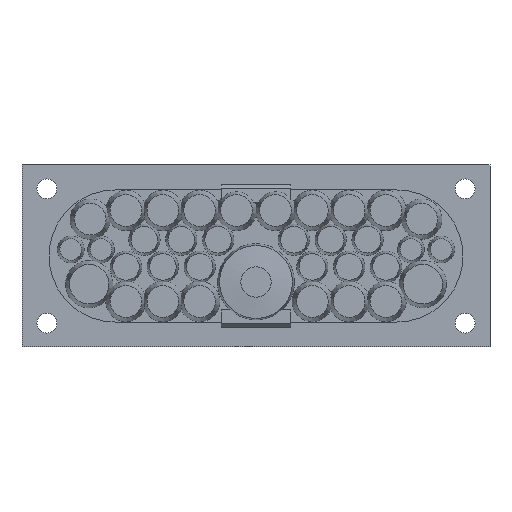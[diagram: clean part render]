
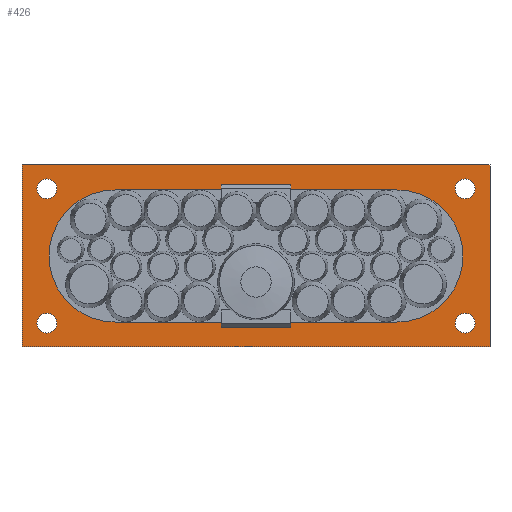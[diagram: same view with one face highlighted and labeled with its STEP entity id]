
A CAD part, front view. The second image highlights one B-rep face of the part: STEP entity #426.
In plain terms, the highlighted planar face has unit normal (0, -1, 0).
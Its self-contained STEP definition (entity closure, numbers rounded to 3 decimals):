
#426 = ADVANCED_FACE( '', ( #1099, #1100, #1101, #1102, #1103, #1104 ), #1105, .F. );
#1099 = FACE_BOUND( '', #2130, .T. );
#1100 = FACE_BOUND( '', #2131, .T. );
#1101 = FACE_BOUND( '', #2132, .T. );
#1102 = FACE_BOUND( '', #2133, .T. );
#1103 = FACE_BOUND( '', #2134, .T. );
#1104 = FACE_OUTER_BOUND( '', #2135, .T. );
#1105 = PLANE( '', #2136 );
#2130 = EDGE_LOOP( '', ( #3365, #3366, #3367, #3368 ) );
#2131 = EDGE_LOOP( '', ( #3369 ) );
#2132 = EDGE_LOOP( '', ( #3370 ) );
#2133 = EDGE_LOOP( '', ( #3371 ) );
#2134 = EDGE_LOOP( '', ( #3372 ) );
#2135 = EDGE_LOOP( '', ( #3373, #3374, #3375, #3376 ) );
#2136 = AXIS2_PLACEMENT_3D( '', #3377, #3378, #3379 );
#3365 = ORIENTED_EDGE( '', *, *, #5196, .F. );
#3366 = ORIENTED_EDGE( '', *, *, #5197, .F. );
#3367 = ORIENTED_EDGE( '', *, *, #5198, .F. );
#3368 = ORIENTED_EDGE( '', *, *, #5199, .F. );
#3369 = ORIENTED_EDGE( '', *, *, #5200, .T. );
#3370 = ORIENTED_EDGE( '', *, *, #5201, .T. );
#3371 = ORIENTED_EDGE( '', *, *, #5202, .T. );
#3372 = ORIENTED_EDGE( '', *, *, #5203, .T. );
#3373 = ORIENTED_EDGE( '', *, *, #5204, .F. );
#3374 = ORIENTED_EDGE( '', *, *, #5205, .F. );
#3375 = ORIENTED_EDGE( '', *, *, #5088, .F. );
#3376 = ORIENTED_EDGE( '', *, *, #5206, .F. );
#3377 = CARTESIAN_POINT( '', ( 0., 0., 0. ) );
#3378 = DIRECTION( '', ( 0., 1., 0. ) );
#3379 = DIRECTION( '', ( 0., 0., 1. ) );
#5088 = EDGE_CURVE( '', #5916, #5918, #5919, .T. );
#5196 = EDGE_CURVE( '', #6092, #6093, #6094, .T. );
#5197 = EDGE_CURVE( '', #6095, #6092, #6096, .F. );
#5198 = EDGE_CURVE( '', #6097, #6095, #6098, .T. );
#5199 = EDGE_CURVE( '', #6093, #6097, #6099, .F. );
#5200 = EDGE_CURVE( '', #6100, #6100, #6101, .T. );
#5201 = EDGE_CURVE( '', #6102, #6102, #6103, .T. );
#5202 = EDGE_CURVE( '', #6104, #6104, #6105, .T. );
#5203 = EDGE_CURVE( '', #6106, #6106, #6107, .T. );
#5204 = EDGE_CURVE( '', #6108, #6109, #6110, .T. );
#5205 = EDGE_CURVE( '', #5918, #6108, #6111, .T. );
#5206 = EDGE_CURVE( '', #6109, #5916, #6112, .T. );
#5916 = VERTEX_POINT( '', #7537 );
#5918 = VERTEX_POINT( '', #7540 );
#5919 = LINE( '', #7541, #7542 );
#6092 = VERTEX_POINT( '', #7842 );
#6093 = VERTEX_POINT( '', #7843 );
#6094 = LINE( '', #7844, #7845 );
#6095 = VERTEX_POINT( '', #7846 );
#6096 = CIRCLE( '', #7847, 30.5 );
#6097 = VERTEX_POINT( '', #7848 );
#6098 = LINE( '', #7849, #7850 );
#6099 = CIRCLE( '', #7851, 30.5 );
#6100 = VERTEX_POINT( '', #7852 );
#6101 = CIRCLE( '', #7853, 4.6 );
#6102 = VERTEX_POINT( '', #7854 );
#6103 = CIRCLE( '', #7855, 4.6 );
#6104 = VERTEX_POINT( '', #7856 );
#6105 = CIRCLE( '', #7857, 4.6 );
#6106 = VERTEX_POINT( '', #7858 );
#6107 = CIRCLE( '', #7859, 4.6 );
#6108 = VERTEX_POINT( '', #7860 );
#6109 = VERTEX_POINT( '', #7861 );
#6110 = LINE( '', #7862, #7863 );
#6111 = LINE( '', #7864, #7865 );
#6112 = LINE( '', #7866, #7867 );
#7537 = CARTESIAN_POINT( '', ( -108., 0., 42. ) );
#7540 = CARTESIAN_POINT( '', ( 108., 0., 42. ) );
#7541 = CARTESIAN_POINT( '', ( -108., 0., 42. ) );
#7542 = VECTOR( '', #9240, 1000. );
#7842 = CARTESIAN_POINT( '', ( -65., 0., -30.5 ) );
#7843 = CARTESIAN_POINT( '', ( 65., 0., -30.5 ) );
#7844 = CARTESIAN_POINT( '', ( 0., 0., -30.5 ) );
#7845 = VECTOR( '', #9405, 1000. );
#7846 = CARTESIAN_POINT( '', ( -65., 0., 30.5 ) );
#7847 = AXIS2_PLACEMENT_3D( '', #9406, #9407, #9408 );
#7848 = CARTESIAN_POINT( '', ( 65., 0., 30.5 ) );
#7849 = CARTESIAN_POINT( '', ( 0., 0., 30.5 ) );
#7850 = VECTOR( '', #9409, 1000. );
#7851 = AXIS2_PLACEMENT_3D( '', #9410, #9411, #9412 );
#7852 = CARTESIAN_POINT( '', ( -91.9, 0., -31. ) );
#7853 = AXIS2_PLACEMENT_3D( '', #9413, #9414, #9415 );
#7854 = CARTESIAN_POINT( '', ( -91.9, 0., 31. ) );
#7855 = AXIS2_PLACEMENT_3D( '', #9416, #9417, #9418 );
#7856 = CARTESIAN_POINT( '', ( 101.1, 0., -31. ) );
#7857 = AXIS2_PLACEMENT_3D( '', #9419, #9420, #9421 );
#7858 = CARTESIAN_POINT( '', ( 101.1, 0., 31. ) );
#7859 = AXIS2_PLACEMENT_3D( '', #9422, #9423, #9424 );
#7860 = CARTESIAN_POINT( '', ( 108., 0., -42. ) );
#7861 = CARTESIAN_POINT( '', ( -108., 0., -42. ) );
#7862 = CARTESIAN_POINT( '', ( 108., 0., -42. ) );
#7863 = VECTOR( '', #9425, 1000. );
#7864 = CARTESIAN_POINT( '', ( 108., 0., 42. ) );
#7865 = VECTOR( '', #9426, 1000. );
#7866 = CARTESIAN_POINT( '', ( -108., 0., -42. ) );
#7867 = VECTOR( '', #9427, 1000. );
#9240 = DIRECTION( '', ( 1., 0., 0. ) );
#9405 = DIRECTION( '', ( 1., 0., 0. ) );
#9406 = CARTESIAN_POINT( '', ( -65., 0., 0. ) );
#9407 = DIRECTION( '', ( 0., 1., 0. ) );
#9408 = DIRECTION( '', ( 0., 0., 1. ) );
#9409 = DIRECTION( '', ( -1., 0., 0. ) );
#9410 = CARTESIAN_POINT( '', ( 65., 0., 0. ) );
#9411 = DIRECTION( '', ( 0., 1., 0. ) );
#9412 = DIRECTION( '', ( 0., 0., 1. ) );
#9413 = CARTESIAN_POINT( '', ( -96.5, 0., -31. ) );
#9414 = DIRECTION( '', ( 0., 1., 0. ) );
#9415 = DIRECTION( '', ( 1., 0., 0. ) );
#9416 = CARTESIAN_POINT( '', ( -96.5, 0., 31. ) );
#9417 = DIRECTION( '', ( 0., 1., 0. ) );
#9418 = DIRECTION( '', ( 1., 0., 0. ) );
#9419 = CARTESIAN_POINT( '', ( 96.5, 0., -31. ) );
#9420 = DIRECTION( '', ( 0., 1., 0. ) );
#9421 = DIRECTION( '', ( 1., 0., 0. ) );
#9422 = CARTESIAN_POINT( '', ( 96.5, 0., 31. ) );
#9423 = DIRECTION( '', ( 0., 1., 0. ) );
#9424 = DIRECTION( '', ( 1., 0., 0. ) );
#9425 = DIRECTION( '', ( -1., 0., 0. ) );
#9426 = DIRECTION( '', ( 0., 0., -1. ) );
#9427 = DIRECTION( '', ( 0., 0., 1. ) );
